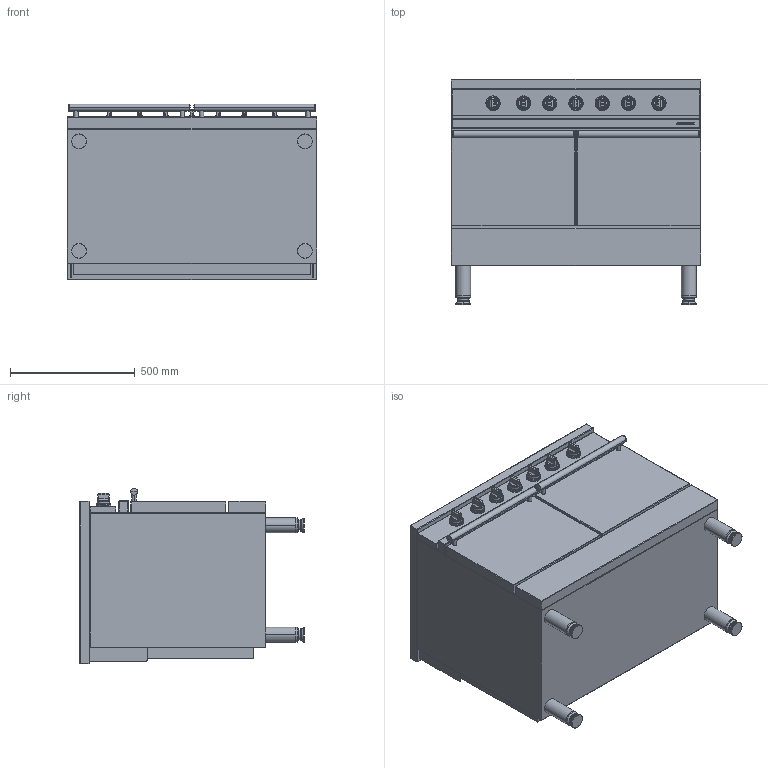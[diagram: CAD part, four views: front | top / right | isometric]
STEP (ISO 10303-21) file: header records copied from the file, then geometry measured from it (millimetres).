
FILE_DESCRIPTION((''),'2;1');
FILE_NAME('CE1052VTR_EXPORT_STEP_ASM','2017-11-22T',('r.avril'),(''),'PRO/ENGINEER BY PARAMETRIC TECHNOLOGY CORPORATION, 2014200','PRO/ENGINEER BY PARAMETRIC TECHNOLOGY CORPORATION, 2014200','');
FILE_SCHEMA(('AP203_CONFIGURATION_CONTROLLED_3D_DESIGN_OF_MECHANICAL_PARTS_AND_ASSEMBLIES_MIM_LF { 1 0 10303 403 2 1 2 }'));
Length unit declared in the file: millimetre
Products named in the file (6): FOURNEAUX_AMB_1052_EXPORT_STEP; TABLE_1000_VITRO_AMB; 65052010; TABLE_1000_VITRO_AMB_ASM; MANETTE_AMB_EXPORT_STEP; CE1052VTR_EXPORT_STEP_ASM
Assembly tree (11 placements, depth 3):
  CE1052VTR_EXPORT_STEP_ASM
    FOURNEAUX_AMB_1052_EXPORT_STEP
    TABLE_1000_VITRO_AMB_ASM
      TABLE_1000_VITRO_AMB
      65052010
    MANETTE_AMB_EXPORT_STEP  x7
Bounding box: 1000 x 900 x 703 mm (x, y, z)
Volume: 463893291 mm3; surface area: 8003292.8 mm2
Topology: 30 solids, 48 shells, 672 faces, 2095 edges, 1753 vertices
Faces by surface type: plane 208, cylinder 178, bspline 84, torus 80, sphere 64, cone 58
Entity records: 20874 total; most frequent: CARTESIAN_POINT 5569, DIRECTION 2421, ORIENTED_EDGE 2018, EDGE_CURVE 1233, VERTEX_POINT 901, AXIS2_PLACEMENT_3D 874, VECTOR 655, LINE 655
